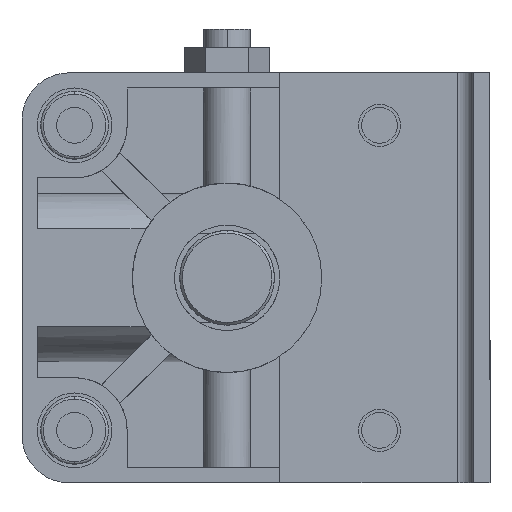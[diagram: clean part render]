
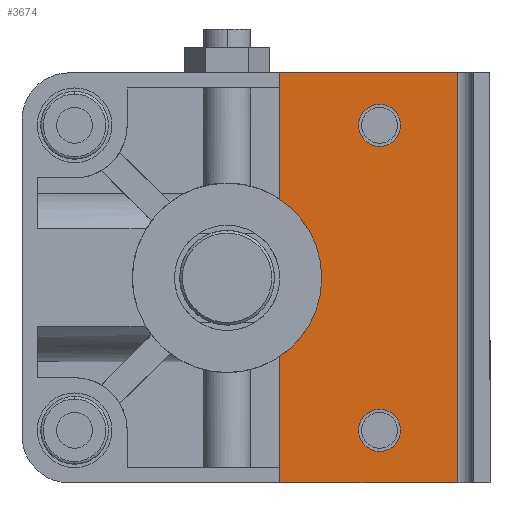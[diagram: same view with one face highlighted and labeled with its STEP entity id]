
A CAD part, left-side view. The second image highlights one B-rep face of the part: STEP entity #3674.
In plain terms, the highlighted planar face has unit normal (-1, 0, 0) as drawn and (0, 0, 1) by its records, which use the part's own axes.
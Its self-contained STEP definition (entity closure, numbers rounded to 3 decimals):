
#92 = CARTESIAN_POINT ( 'NONE',  ( -39., -30.5, 0. ) ) ;
#151 = FACE_OUTER_BOUND ( 'NONE', #9472, .T. ) ;
#341 = ORIENTED_EDGE ( 'NONE', *, *, #3786, .T. ) ;
#500 = EDGE_CURVE ( 'NONE', #7749, #8306, #8033, .T. ) ;
#593 = CARTESIAN_POINT ( 'NONE',  ( 25., -29.5, 0. ) ) ;
#749 = DIRECTION ( 'NONE',  ( 1., 0., 0. ) ) ;
#901 = EDGE_CURVE ( 'NONE', #1494, #8345, #8774, .T. ) ;
#905 = EDGE_LOOP ( 'NONE', ( #6991, #2855 ) ) ;
#1494 = VERTEX_POINT ( 'NONE', #8313 ) ;
#1539 = VERTEX_POINT ( 'NONE', #2614 ) ;
#1732 = DIRECTION ( 'NONE',  ( 1., 0., 0. ) ) ;
#1836 = CARTESIAN_POINT ( 'NONE',  ( 0., -10.5, 0. ) ) ;
#1937 = AXIS2_PLACEMENT_3D ( 'NONE', #2452, #3923, #749 ) ;
#1956 = AXIS2_PLACEMENT_3D ( 'NONE', #3505, #5984, #3666 ) ;
#2255 = CARTESIAN_POINT ( 'NONE',  ( 29., -29.5, 0. ) ) ;
#2342 = VECTOR ( 'NONE', #2660, 1000. ) ;
#2374 = CARTESIAN_POINT ( 'NONE',  ( 39., -44.3, 0. ) ) ;
#2382 = ORIENTED_EDGE ( 'NONE', *, *, #901, .T. ) ;
#2431 = CARTESIAN_POINT ( 'NONE',  ( 39., -30.5, 0. ) ) ;
#2433 = EDGE_CURVE ( 'NONE', #1494, #9654, #10024, .T. ) ;
#2452 = CARTESIAN_POINT ( 'NONE',  ( 29., -29.5, 0. ) ) ;
#2534 = VECTOR ( 'NONE', #7692, 1000. ) ;
#2542 = CIRCLE ( 'NONE', #5906, 18. ) ;
#2614 = CARTESIAN_POINT ( 'NONE',  ( -14.62, -10.5, 0. ) ) ;
#2660 = DIRECTION ( 'NONE',  ( -1., 0., 0. ) ) ;
#2855 = ORIENTED_EDGE ( 'NONE', *, *, #8465, .T. ) ;
#3024 = VERTEX_POINT ( 'NONE', #6839 ) ;
#3028 = VECTOR ( 'NONE', #6200, 1000. ) ;
#3034 = CARTESIAN_POINT ( 'NONE',  ( -25., -29.5, 0. ) ) ;
#3504 = ORIENTED_EDGE ( 'NONE', *, *, #2433, .F. ) ;
#3505 = CARTESIAN_POINT ( 'NONE',  ( -39., -44.3, 0. ) ) ;
#3666 = DIRECTION ( 'NONE',  ( 1., 0., 0. ) ) ;
#3674 = ADVANCED_FACE ( 'NONE', ( #6675, #8038, #151 ), #6504, .T. ) ;
#3756 = DIRECTION ( 'NONE',  ( 1., 0., 0. ) ) ;
#3786 = EDGE_CURVE ( 'NONE', #1539, #9670, #6349, .T. ) ;
#3923 = DIRECTION ( 'NONE',  ( 0., 0., -1. ) ) ;
#4066 = DIRECTION ( 'NONE',  ( 0., 0., -1. ) ) ;
#4543 = CARTESIAN_POINT ( 'NONE',  ( 14.62, -10.5, 0. ) ) ;
#4682 = VERTEX_POINT ( 'NONE', #9016 ) ;
#4737 = DIRECTION ( 'NONE',  ( 0., 0., -1. ) ) ;
#4928 = DIRECTION ( 'NONE',  ( 1., 0., 0. ) ) ;
#5100 = DIRECTION ( 'NONE',  ( 0., -1., 0. ) ) ;
#5422 = DIRECTION ( 'NONE',  ( 0., 0., -1. ) ) ;
#5539 = ORIENTED_EDGE ( 'NONE', *, *, #10229, .F. ) ;
#5546 = CARTESIAN_POINT ( 'NONE',  ( 0., -10.5, 0. ) ) ;
#5639 = VECTOR ( 'NONE', #7117, 1000. ) ;
#5906 = AXIS2_PLACEMENT_3D ( 'NONE', #9333, #5422, #4928 ) ;
#5984 = DIRECTION ( 'NONE',  ( 0., 0., 1. ) ) ;
#5996 = EDGE_CURVE ( 'NONE', #9843, #3024, #8256, .T. ) ;
#6036 = ORIENTED_EDGE ( 'NONE', *, *, #6947, .T. ) ;
#6200 = DIRECTION ( 'NONE',  ( -1., 0., 0. ) ) ;
#6255 = DIRECTION ( 'NONE',  ( 1., 0., 0. ) ) ;
#6349 = LINE ( 'NONE', #1836, #2534 ) ;
#6504 = PLANE ( 'NONE',  #1956 ) ;
#6675 = FACE_BOUND ( 'NONE', #8326, .T. ) ;
#6839 = CARTESIAN_POINT ( 'NONE',  ( -33., -29.5, 0. ) ) ;
#6840 = ORIENTED_EDGE ( 'NONE', *, *, #8419, .T. ) ;
#6947 = EDGE_CURVE ( 'NONE', #8345, #1539, #2542, .T. ) ;
#6991 = ORIENTED_EDGE ( 'NONE', *, *, #500, .T. ) ;
#7117 = DIRECTION ( 'NONE',  ( 0., 1., 0. ) ) ;
#7435 = CARTESIAN_POINT ( 'NONE',  ( -29., -29.5, 0. ) ) ;
#7459 = AXIS2_PLACEMENT_3D ( 'NONE', #7435, #10196, #6255 ) ;
#7488 = CIRCLE ( 'NONE', #7926, 4. ) ;
#7594 = CARTESIAN_POINT ( 'NONE',  ( -29., -29.5, 0. ) ) ;
#7692 = DIRECTION ( 'NONE',  ( -1., 0., 0. ) ) ;
#7736 = ORIENTED_EDGE ( 'NONE', *, *, #5996, .T. ) ;
#7749 = VERTEX_POINT ( 'NONE', #9806 ) ;
#7926 = AXIS2_PLACEMENT_3D ( 'NONE', #2255, #4066, #3756 ) ;
#8033 = CIRCLE ( 'NONE', #1937, 4. ) ;
#8038 = FACE_BOUND ( 'NONE', #905, .T. ) ;
#8226 = EDGE_CURVE ( 'NONE', #4682, #9670, #9176, .T. ) ;
#8256 = CIRCLE ( 'NONE', #7459, 4. ) ;
#8260 = VECTOR ( 'NONE', #5100, 1000. ) ;
#8306 = VERTEX_POINT ( 'NONE', #593 ) ;
#8313 = CARTESIAN_POINT ( 'NONE',  ( 39., -10.5, 0. ) ) ;
#8326 = EDGE_LOOP ( 'NONE', ( #7736, #6840 ) ) ;
#8345 = VERTEX_POINT ( 'NONE', #4543 ) ;
#8419 = EDGE_CURVE ( 'NONE', #3024, #9843, #9139, .T. ) ;
#8465 = EDGE_CURVE ( 'NONE', #8306, #7749, #7488, .T. ) ;
#8774 = LINE ( 'NONE', #5546, #3028 ) ;
#8868 = LINE ( 'NONE', #10250, #2342 ) ;
#9016 = CARTESIAN_POINT ( 'NONE',  ( -39., -44.3, 0. ) ) ;
#9139 = CIRCLE ( 'NONE', #10262, 4. ) ;
#9176 = LINE ( 'NONE', #92, #5639 ) ;
#9333 = CARTESIAN_POINT ( 'NONE',  ( 0., 0., 0. ) ) ;
#9472 = EDGE_LOOP ( 'NONE', ( #6036, #341, #9830, #5539, #3504, #2382 ) ) ;
#9625 = CARTESIAN_POINT ( 'NONE',  ( -39., -10.5, 0. ) ) ;
#9654 = VERTEX_POINT ( 'NONE', #2374 ) ;
#9670 = VERTEX_POINT ( 'NONE', #9625 ) ;
#9806 = CARTESIAN_POINT ( 'NONE',  ( 33., -29.5, 0. ) ) ;
#9830 = ORIENTED_EDGE ( 'NONE', *, *, #8226, .F. ) ;
#9843 = VERTEX_POINT ( 'NONE', #3034 ) ;
#10024 = LINE ( 'NONE', #2431, #8260 ) ;
#10196 = DIRECTION ( 'NONE',  ( 0., 0., -1. ) ) ;
#10229 = EDGE_CURVE ( 'NONE', #9654, #4682, #8868, .T. ) ;
#10250 = CARTESIAN_POINT ( 'NONE',  ( 0., -44.3, 0. ) ) ;
#10262 = AXIS2_PLACEMENT_3D ( 'NONE', #7594, #4737, #1732 ) ;
